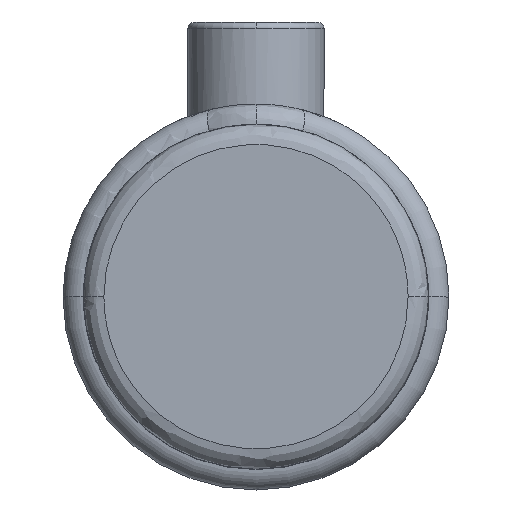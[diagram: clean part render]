
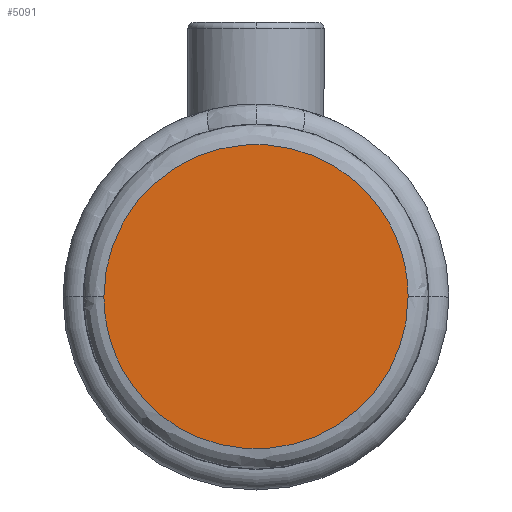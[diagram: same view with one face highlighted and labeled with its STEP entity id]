
A CAD part, top view. The second image highlights one B-rep face of the part: STEP entity #5091.
In plain terms, the highlighted planar face has unit normal (0, 0, 1).
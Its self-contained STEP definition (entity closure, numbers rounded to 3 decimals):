
#80 = CARTESIAN_POINT ( 'NONE',  ( 22.35, 0., 38. ) ) ;
#136 =( BOUNDED_CURVE ( )  B_SPLINE_CURVE ( 3, ( #80, #6795, #7800, #8144 ),
 .UNSPECIFIED., .F., .T. ) 
 B_SPLINE_CURVE_WITH_KNOTS ( ( 4, 4 ),
 ( 0.25, 0.75 ),
 .UNSPECIFIED. ) 
 CURVE ( )  GEOMETRIC_REPRESENTATION_ITEM ( )  RATIONAL_B_SPLINE_CURVE ( ( 1., 0.333, 0.333, 1. ) ) 
 REPRESENTATION_ITEM ( '' )  );
#313 = ORIENTED_EDGE ( 'NONE', *, *, #593, .F. ) ;
#593 = EDGE_CURVE ( 'NONE', #2047, #1515, #136, .T. ) ;
#1143 = CARTESIAN_POINT ( 'NONE',  ( 0., 12.675, 38. ) ) ;
#1515 = VERTEX_POINT ( 'NONE', #3430 ) ;
#2047 = VERTEX_POINT ( 'NONE', #2557 ) ;
#2470 = FACE_OUTER_BOUND ( 'NONE', #6916, .T. ) ;
#2557 = CARTESIAN_POINT ( 'NONE',  ( 22.35, 0., 38. ) ) ;
#2558 = PLANE ( 'NONE',  #4162 ) ;
#3188 = DIRECTION ( 'NONE',  ( 0., 0., 1. ) ) ;
#3430 = CARTESIAN_POINT ( 'NONE',  ( -22.35, 0., 38. ) ) ;
#3909 = EDGE_CURVE ( 'NONE', #1515, #2047, #4804, .T. ) ;
#4162 = AXIS2_PLACEMENT_3D ( 'NONE', #1143, #3188, #7638 ) ;
#4804 =( BOUNDED_CURVE ( )  B_SPLINE_CURVE ( 3, ( #8095, #6929, #6729, #6709 ),
 .UNSPECIFIED., .F., .F. ) 
 B_SPLINE_CURVE_WITH_KNOTS ( ( 4, 4 ),
 ( 0.75, 1.25 ),
 .UNSPECIFIED. ) 
 CURVE ( )  GEOMETRIC_REPRESENTATION_ITEM ( )  RATIONAL_B_SPLINE_CURVE ( ( 1., 0.333, 0.333, 1. ) ) 
 REPRESENTATION_ITEM ( '' )  );
#5021 = ORIENTED_EDGE ( 'NONE', *, *, #3909, .F. ) ;
#5091 = ADVANCED_FACE ( 'NONE', ( #2470 ), #2558, .T. ) ;
#6709 = CARTESIAN_POINT ( 'NONE',  ( 22.35, 0., 38. ) ) ;
#6729 = CARTESIAN_POINT ( 'NONE',  ( 22.35, 44.7, 38. ) ) ;
#6795 = CARTESIAN_POINT ( 'NONE',  ( 22.35, -44.7, 38. ) ) ;
#6916 = EDGE_LOOP ( 'NONE', ( #313, #5021 ) ) ;
#6929 = CARTESIAN_POINT ( 'NONE',  ( -22.35, 44.7, 38. ) ) ;
#7638 = DIRECTION ( 'NONE',  ( 0., -1., 0. ) ) ;
#7800 = CARTESIAN_POINT ( 'NONE',  ( -22.35, -44.7, 38. ) ) ;
#8095 = CARTESIAN_POINT ( 'NONE',  ( -22.35, 0., 38. ) ) ;
#8144 = CARTESIAN_POINT ( 'NONE',  ( -22.35, 0., 38. ) ) ;
